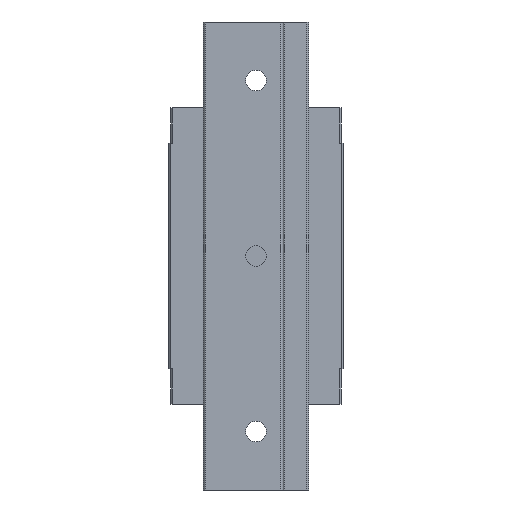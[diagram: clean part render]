
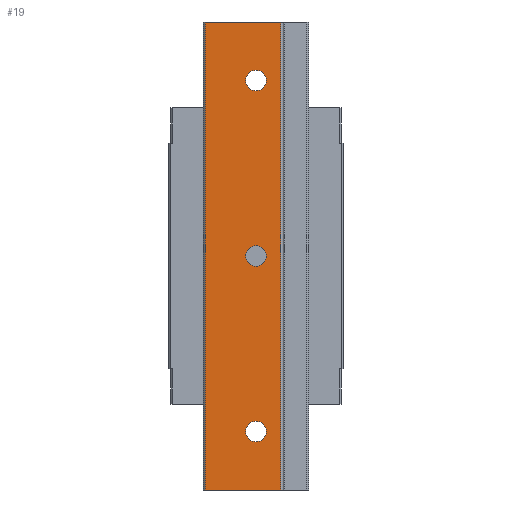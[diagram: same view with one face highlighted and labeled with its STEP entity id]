
A CAD part, front view. The second image highlights one B-rep face of the part: STEP entity #19.
In plain terms, the highlighted planar face has unit normal (0, -1, 0).
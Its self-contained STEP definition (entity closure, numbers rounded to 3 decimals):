
#19 = ADVANCED_FACE ( 'NONE', ( #866, #4307, #3246, #2251 ), #915, .F. ) ;
#32 = CARTESIAN_POINT ( 'NONE',  ( 4.2, 0., 40. ) ) ;
#94 = ORIENTED_EDGE ( 'NONE', *, *, #1378, .F. ) ;
#135 = CARTESIAN_POINT ( 'NONE',  ( 0., 0., 1.75 ) ) ;
#144 = AXIS2_PLACEMENT_3D ( 'NONE', #1424, #1081, #2015 ) ;
#199 = CARTESIAN_POINT ( 'NONE',  ( 0., 0., -31.75 ) ) ;
#248 = AXIS2_PLACEMENT_3D ( 'NONE', #588, #1209, #2986 ) ;
#338 = ORIENTED_EDGE ( 'NONE', *, *, #2521, .F. ) ;
#578 = VERTEX_POINT ( 'NONE', #2076 ) ;
#588 = CARTESIAN_POINT ( 'NONE',  ( -9., 0., 40. ) ) ;
#661 = EDGE_LOOP ( 'NONE', ( #3075, #2308 ) ) ;
#790 = EDGE_CURVE ( 'NONE', #2765, #1405, #3589, .T. ) ;
#794 = EDGE_CURVE ( 'NONE', #2695, #1975, #2729, .T. ) ;
#866 = FACE_BOUND ( 'NONE', #4020, .T. ) ;
#867 = CARTESIAN_POINT ( 'NONE',  ( -8.7, 0., 40. ) ) ;
#915 = PLANE ( 'NONE',  #248 ) ;
#1025 = VERTEX_POINT ( 'NONE', #2638 ) ;
#1064 = CARTESIAN_POINT ( 'NONE',  ( 0., 0., 30. ) ) ;
#1081 = DIRECTION ( 'NONE',  ( 0., -1., 0. ) ) ;
#1090 = DIRECTION ( 'NONE',  ( 0., -1., 0. ) ) ;
#1166 = EDGE_CURVE ( 'NONE', #1405, #2765, #1207, .T. ) ;
#1170 = DIRECTION ( 'NONE',  ( -1., 0., 0. ) ) ;
#1173 = CARTESIAN_POINT ( 'NONE',  ( 0., 0., 28.25 ) ) ;
#1207 = CIRCLE ( 'NONE', #144, 1.75 ) ;
#1209 = DIRECTION ( 'NONE',  ( 0., 1., 0. ) ) ;
#1259 = ORIENTED_EDGE ( 'NONE', *, *, #1166, .F. ) ;
#1309 = DIRECTION ( 'NONE',  ( 0., 0., -1. ) ) ;
#1378 = EDGE_CURVE ( 'NONE', #4089, #2019, #3353, .T. ) ;
#1405 = VERTEX_POINT ( 'NONE', #199 ) ;
#1424 = CARTESIAN_POINT ( 'NONE',  ( 0., 0., -30. ) ) ;
#1459 = CARTESIAN_POINT ( 'NONE',  ( 0., 0., -30. ) ) ;
#1480 = DIRECTION ( 'NONE',  ( 0., 0., -1. ) ) ;
#1482 = DIRECTION ( 'NONE',  ( 0., 0., -1. ) ) ;
#1529 = EDGE_CURVE ( 'NONE', #2019, #4089, #3435, .T. ) ;
#1653 = VECTOR ( 'NONE', #4243, 1000. ) ;
#1665 = EDGE_CURVE ( 'NONE', #1975, #2695, #2716, .T. ) ;
#1697 = DIRECTION ( 'NONE',  ( 0., -1., 0. ) ) ;
#1733 = LINE ( 'NONE', #3117, #3174 ) ;
#1828 = CARTESIAN_POINT ( 'NONE',  ( 4.2, 0., 40. ) ) ;
#1837 = VERTEX_POINT ( 'NONE', #867 ) ;
#1975 = VERTEX_POINT ( 'NONE', #135 ) ;
#2014 = EDGE_CURVE ( 'NONE', #1025, #578, #3169, .T. ) ;
#2015 = DIRECTION ( 'NONE',  ( 0., 0., -1. ) ) ;
#2019 = VERTEX_POINT ( 'NONE', #1173 ) ;
#2076 = CARTESIAN_POINT ( 'NONE',  ( -8.7, 0., -40. ) ) ;
#2185 = ORIENTED_EDGE ( 'NONE', *, *, #2014, .F. ) ;
#2251 = FACE_OUTER_BOUND ( 'NONE', #3573, .T. ) ;
#2308 = ORIENTED_EDGE ( 'NONE', *, *, #1665, .F. ) ;
#2353 = ORIENTED_EDGE ( 'NONE', *, *, #790, .F. ) ;
#2415 = DIRECTION ( 'NONE',  ( 0., 0., -1. ) ) ;
#2420 = ORIENTED_EDGE ( 'NONE', *, *, #3119, .T. ) ;
#2480 = CARTESIAN_POINT ( 'NONE',  ( 0., 0., 0. ) ) ;
#2511 = DIRECTION ( 'NONE',  ( 0., 0., -1. ) ) ;
#2517 = CARTESIAN_POINT ( 'NONE',  ( 4.5, 0., 40. ) ) ;
#2521 = EDGE_CURVE ( 'NONE', #578, #1837, #1733, .T. ) ;
#2638 = CARTESIAN_POINT ( 'NONE',  ( 4.2, 0., -40. ) ) ;
#2695 = VERTEX_POINT ( 'NONE', #3022 ) ;
#2716 = CIRCLE ( 'NONE', #4043, 1.75 ) ;
#2729 = CIRCLE ( 'NONE', #3522, 1.75 ) ;
#2765 = VERTEX_POINT ( 'NONE', #3289 ) ;
#2778 = DIRECTION ( 'NONE',  ( 0., 0., 1. ) ) ;
#2779 = AXIS2_PLACEMENT_3D ( 'NONE', #1064, #1697, #2415 ) ;
#2825 = CARTESIAN_POINT ( 'NONE',  ( 0., 0., 30. ) ) ;
#2835 = DIRECTION ( 'NONE',  ( 0., -1., 0. ) ) ;
#2888 = CARTESIAN_POINT ( 'NONE',  ( 4.5, 0., -40. ) ) ;
#2895 = ORIENTED_EDGE ( 'NONE', *, *, #4166, .F. ) ;
#2985 = ORIENTED_EDGE ( 'NONE', *, *, #1529, .F. ) ;
#2986 = DIRECTION ( 'NONE',  ( 1., 0., 0. ) ) ;
#3022 = CARTESIAN_POINT ( 'NONE',  ( 0., 0., -1.75 ) ) ;
#3053 = VECTOR ( 'NONE', #1170, 1000. ) ;
#3062 = LINE ( 'NONE', #32, #4086 ) ;
#3075 = ORIENTED_EDGE ( 'NONE', *, *, #794, .F. ) ;
#3079 = EDGE_LOOP ( 'NONE', ( #2985, #94 ) ) ;
#3117 = CARTESIAN_POINT ( 'NONE',  ( -8.7, 0., 40. ) ) ;
#3119 = EDGE_CURVE ( 'NONE', #4409, #1837, #3554, .T. ) ;
#3131 = DIRECTION ( 'NONE',  ( 0., 0., -1. ) ) ;
#3138 = CARTESIAN_POINT ( 'NONE',  ( 0., 0., 0. ) ) ;
#3169 = LINE ( 'NONE', #2888, #1653 ) ;
#3174 = VECTOR ( 'NONE', #2778, 1000. ) ;
#3199 = AXIS2_PLACEMENT_3D ( 'NONE', #2825, #4225, #1309 ) ;
#3246 = FACE_BOUND ( 'NONE', #3079, .T. ) ;
#3289 = CARTESIAN_POINT ( 'NONE',  ( 0., 0., -28.25 ) ) ;
#3353 = CIRCLE ( 'NONE', #3199, 1.75 ) ;
#3435 = CIRCLE ( 'NONE', #2779, 1.75 ) ;
#3522 = AXIS2_PLACEMENT_3D ( 'NONE', #2480, #4255, #2511 ) ;
#3554 = LINE ( 'NONE', #2517, #3053 ) ;
#3573 = EDGE_LOOP ( 'NONE', ( #2420, #338, #2185, #2895 ) ) ;
#3589 = CIRCLE ( 'NONE', #4123, 1.75 ) ;
#3687 = CARTESIAN_POINT ( 'NONE',  ( 0., 0., 31.75 ) ) ;
#4020 = EDGE_LOOP ( 'NONE', ( #1259, #2353 ) ) ;
#4043 = AXIS2_PLACEMENT_3D ( 'NONE', #3138, #1090, #1480 ) ;
#4086 = VECTOR ( 'NONE', #3131, 1000. ) ;
#4089 = VERTEX_POINT ( 'NONE', #3687 ) ;
#4123 = AXIS2_PLACEMENT_3D ( 'NONE', #1459, #2835, #1482 ) ;
#4166 = EDGE_CURVE ( 'NONE', #4409, #1025, #3062, .T. ) ;
#4225 = DIRECTION ( 'NONE',  ( 0., -1., 0. ) ) ;
#4243 = DIRECTION ( 'NONE',  ( -1., 0., 0. ) ) ;
#4255 = DIRECTION ( 'NONE',  ( 0., -1., 0. ) ) ;
#4307 = FACE_BOUND ( 'NONE', #661, .T. ) ;
#4409 = VERTEX_POINT ( 'NONE', #1828 ) ;
